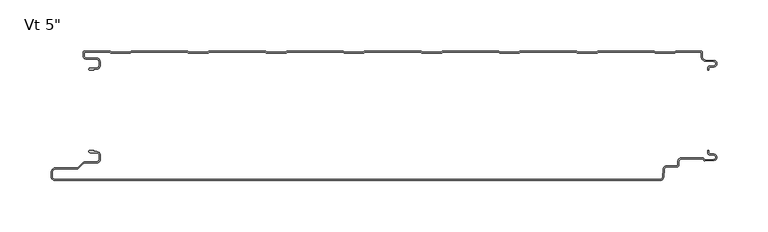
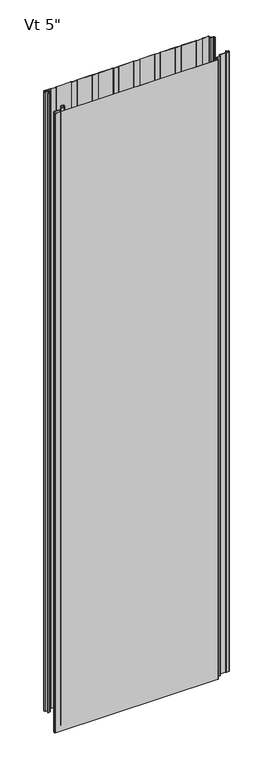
"""IFC4 building model written with IfcOpenShell, lengths in millimetres: plate geometry."""

from ifc_helpers import new_model, si_unit, point, frame, frame_2d, origin, origin_with_axes, place, context, project, spatial, polyline, circle_curve, trimmed, segment, composite_curve, outline, extrude, source, transform, mapped, element, save
from ifc_brep_helpers import plane_surface, cylinder_surface, revolved_surface, advanced_brep


def plate_0180bbca(model_context):
    return source(origin(), model_context, "Body", "SolidModel", [
        advanced_brep(
        [(-302.7686912, -17.0015159, 2400.0), (-303.7686884, -18.0015191, 2400.0), (-302.7686912, -19.0015104, 2400.0), (-298.7684875, -19.0015105, 2400.0), (-298.7684875, -18.0015159, 2400.0), (-296.0762777, -18.0015159, 2400.0), (-292.776282, -14.7015202, 2400.0), (-292.776282, -10.301529, 2400.0), (-296.0762775, -7.0015335, 2400.0), (-306.4962564, -7.0015335, 2400.0), (-308.2662506, -5.2315393, 2400.0), (-308.2662506, -0.9999916, 2400.0), (-283.765974, -0.9999916, 2400.0), (-282.3803314, -2.2002307, 2400.0), (-263.0051651, -2.2002307, 2400.0), (-261.6195321, -1.0, 2400.0), (-207.5661167, -1.0, 2400.0), (-206.1804838, -2.2002307, 2400.0), (-186.8053175, -2.2002307, 2400.0), (-185.4196845, -1.0, 2400.0), (-131.3662691, -1.0, 2400.0), (-129.9806362, -2.2002307, 2400.0), (-110.6054699, -2.2002307, 2400.0), (-109.2198369, -1.0, 2400.0), (-55.1664215, -1.0, 2400.0), (-53.7807886, -2.2002307, 2400.0), (-34.4056223, -2.2002307, 2400.0), (-33.0199893, -1.0, 2400.0), (21.0334261, -1.0, 2400.0), (22.419059, -2.2002307, 2400.0), (41.7942253, -2.2002307, 2400.0), (43.1798583, -1.0, 2400.0), (97.2332737, -1.0, 2400.0), (98.6189066, -2.2002307, 2400.0), (117.9940729, -2.2002307, 2400.0), (119.3797059, -1.0, 2400.0), (173.4331213, -1.0, 2400.0), (174.8187542, -2.2002307, 2400.0), (194.1939205, -2.2002307, 2400.0), (195.5795535, -1.0, 2400.0), (249.6329689, -1.0, 2400.0), (251.0186018, -2.2002307, 2400.0), (270.3937681, -2.2002307, 2400.0), (271.7794011, -1.0, 2400.0), (296.2787013, -1.0, 2400.0), (296.2787013, -6.0026007, 2400.0), (300.1016499, -9.9974365, 2400.0), (308.5931719, -10.4046442, 2400.0), (308.5921924, -14.7059822, 2400.0), (304.4513685, -14.9256429, 2400.0), (302.7686884, -16.6743462, 2400.0), (302.7686884, -19.0015288, 2400.0), (303.7686884, -19.0015288, 2400.0), (303.7686884, -16.6743462, 2400.0), (304.4955779, -15.9247038, 2400.0), (308.6451655, -15.7045782, 2400.0), (308.6435732, -9.405912, 2400.0), (300.1495495, -8.9985844, 2400.0), (297.2787013, -6.0004836, 2400.0), (297.2787013, -1.4015652, 2400.0), (295.878797, -0.001568, 2400.0), (271.9275849, 2.09e-05, 2400.0), (271.0119353, -0.3417885, 2400.0), (270.0208877, -1.2002307, 2400.0), (251.3914823, -1.2002307, 2400.0), (250.4004346, -0.3417885, 2400.0), (249.4838177, 0.0, 2400.0), (195.7287046, 0.0, 2400.0), (194.8120877, -0.3417885, 2400.0), (193.8210401, -1.2002307, 2400.0), (175.1916347, -1.2002307, 2400.0), (174.200587, -0.3417885, 2400.0), (173.2839701, 0.0, 2400.0), (119.528857, 0.0, 2400.0), (118.6122401, -0.3417885, 2400.0), (117.6211925, -1.2002307, 2400.0), (98.9917871, -1.2002307, 2400.0), (98.0007394, -0.3417885, 2400.0), (97.0841225, 0.0, 2400.0), (43.3290094, 0.0, 2400.0), (42.4123925, -0.3417885, 2400.0), (41.4213449, -1.2002307, 2400.0), (22.7919395, -1.2002307, 2400.0), (21.8008918, -0.3417885, 2400.0), (20.8842749, 0.0, 2400.0), (-32.8708382, 0.0, 2400.0), (-33.7874551, -0.3417885, 2400.0), (-34.7785027, -1.2002307, 2400.0), (-53.4079081, -1.2002307, 2400.0), (-54.3989558, -0.3417885, 2400.0), (-55.3155727, 0.0, 2400.0), (-109.0706858, 0.0, 2400.0), (-109.9873027, -0.3417885, 2400.0), (-110.9783503, -1.2002307, 2400.0), (-129.6077557, -1.2002307, 2400.0), (-130.5988034, -0.3417885, 2400.0), (-131.5154203, 0.0, 2400.0), (-185.2705334, 0.0, 2400.0), (-186.1871503, -0.3417885, 2400.0), (-187.1781979, -1.2002307, 2400.0), (-205.8076033, -1.2002307, 2400.0), (-206.798651, -0.3417885, 2400.0), (-207.7152679, 0.0, 2400.0), (-261.470381, 0.0, 2400.0), (-262.3869979, -0.3417885, 2400.0), (-263.3780455, -1.2002307, 2400.0), (-282.0074509, -1.2002307, 2400.0), (-282.9984986, -0.3417885, 2400.0), (-283.9152069, 0.0, 2400.0), (-307.8662545, 8.4e-06, 2400.0), (-309.2662506, -1.3999878, 2400.0), (-309.2662506, -5.2315393, 2400.0), (-306.4962564, -8.0015335, 2400.0), (-296.0762775, -8.0015335, 2400.0), (-293.776282, -10.301529, 2400.0), (-293.776282, -14.7015202, 2400.0), (-296.0762777, -17.0015159, 2400.0), (-302.7686912, -17.0015159, 0.0), (-296.0762777, -17.0015159, 0.0), (-293.776282, -14.7015202, 0.0), (-293.776282, -10.301529, 0.0), (-296.0762775, -8.0015335, 0.0), (-306.4962564, -8.0015335, 0.0), (-309.2662506, -5.2315393, 0.0), (-309.2662506, -1.3999878, 0.0), (-307.8662545, 8.4e-06, 0.0), (-283.9151155, 8.4e-06, 0.0), (-282.9984986, -0.3417885, 0.0), (-282.0074509, -1.2002307, 0.0), (-263.3780455, -1.2002307, 0.0), (-262.3869979, -0.3417885, 0.0), (-261.470381, 0.0, 0.0), (-207.7152679, 0.0, 0.0), (-206.798651, -0.3417885, 0.0), (-205.8076033, -1.2002307, 0.0), (-187.1781979, -1.2002307, 0.0), (-186.1871503, -0.3417885, 0.0), (-185.2705334, 0.0, 0.0), (-131.5154203, 0.0, 0.0), (-130.5988034, -0.3417885, 0.0), (-129.6077557, -1.2002307, 0.0), (-110.9783503, -1.2002307, 0.0), (-109.9873027, -0.3417885, 0.0), (-109.0706858, 0.0, 0.0), (-55.3155727, 0.0, 0.0), (-54.3989558, -0.3417885, 0.0), (-53.4079081, -1.2002307, 0.0), (-34.7785027, -1.2002307, 0.0), (-33.7874551, -0.3417885, 0.0), (-32.8708382, 0.0, 0.0), (20.8842749, 0.0, 0.0), (21.8008918, -0.3417885, 0.0), (22.7919395, -1.2002307, 0.0), (41.4213449, -1.2002307, 0.0), (42.4123925, -0.3417885, 0.0), (43.3290094, 0.0, 0.0), (97.0841225, 0.0, 0.0), (98.0007394, -0.3417885, 0.0), (98.9917871, -1.2002307, 0.0), (117.6211925, -1.2002307, 0.0), (118.6122401, -0.3417885, 0.0), (119.528857, 0.0, 0.0), (173.2839701, 0.0, 0.0), (174.200587, -0.3417885, 0.0), (175.1916347, -1.2002307, 0.0), (193.8210401, -1.2002307, 0.0), (194.8120877, -0.3417885, 0.0), (195.7287046, 0.0, 0.0), (249.4838177, 0.0, 0.0), (250.4004346, -0.3417885, 0.0), (251.3914823, -1.2002307, 0.0), (270.0208877, -1.2002307, 0.0), (271.0119353, -0.3417885, 0.0), (271.9285522, 0.0, 0.0), (295.878797, 2.09e-05, 0.0), (297.2787013, -1.4015652, 0.0), (297.2787013, -6.0004836, 0.0), (300.1495495, -8.9985844, 0.0), (308.6435732, -9.405912, 0.0), (308.6451655, -15.7045782, 0.0), (304.4955779, -15.9247038, 0.0), (303.7686884, -16.6743462, 0.0), (303.7686884, -19.0015288, 0.0), (302.7686884, -19.0015288, 0.0), (302.7686884, -16.6743462, 0.0), (304.4513685, -14.9256429, 0.0), (308.5921924, -14.7059822, 0.0), (308.5931719, -10.4046442, 0.0), (300.1016499, -9.9974365, 0.0), (296.2787013, -6.0026007, 0.0), (296.2787013, -1.0, 0.0), (271.7794011, -1.0, 0.0), (270.3937681, -2.2002307, 0.0), (251.0186018, -2.2002307, 0.0), (249.6329689, -1.0, 0.0), (195.5795535, -1.0, 0.0), (194.1939205, -2.2002307, 0.0), (174.8187542, -2.2002307, 0.0), (173.4331213, -1.0, 0.0), (119.3797059, -1.0, 0.0), (117.9940729, -2.2002307, 0.0), (98.6189066, -2.2002307, 0.0), (97.2332737, -1.0, 0.0), (43.1798583, -1.0, 0.0), (41.7942253, -2.2002307, 0.0), (22.419059, -2.2002307, 0.0), (21.0334261, -1.0, 0.0), (-33.0199893, -1.0, 0.0), (-34.4056223, -2.2002307, 0.0), (-53.7807886, -2.2002307, 0.0), (-55.1664215, -1.0, 0.0), (-109.2198369, -1.0, 0.0), (-110.6054699, -2.2002307, 0.0), (-129.9806362, -2.2002307, 0.0), (-131.3662691, -1.0, 0.0), (-185.4196845, -1.0, 0.0), (-186.8053175, -2.2002307, 0.0), (-206.1804838, -2.2002307, 0.0), (-207.5661167, -1.0, 0.0), (-261.6195321, -1.0, 0.0), (-263.0051651, -2.2002307, 0.0), (-282.3803314, -2.2002307, 0.0), (-283.765974, -0.9999916, 0.0), (-308.2662506, -0.9999916, 0.0), (-308.2662506, -5.2315393, 0.0), (-306.4962564, -7.0015335, 0.0), (-296.0762775, -7.0015335, 0.0), (-292.776282, -10.301529, 0.0), (-292.776282, -14.7015202, 0.0), (-296.0762777, -18.0015159, 0.0), (-298.7684875, -18.0015159, 0.0), (-298.7684875, -19.0015105, 0.0), (-302.7686912, -19.0015105, 0.0), (-303.7686884, -18.0015191, 0.0)],
        [
            (0, 1, circle_curve(frame((-302.7686912, -18.0015132, 2400.0), z_axis=(0.0, 0.0, 1.0), x_axis=(1.0, 0.0, 0.0)), 0.9999973)),
            (1, 2, circle_curve(frame((-302.7686912, -18.0015132, 2400.0), z_axis=(0.0, 0.0, 1.0), x_axis=(1.0, 0.0, 0.0)), 0.9999972)),
            (2, 3),
            (3, 4),
            (4, 5),
            (5, 6, circle_curve(frame((-296.0762777, -14.7015202, 2400.0), z_axis=(0.0, 0.0, 1.0), x_axis=(1.0, 0.0, 0.0)), 3.2999957)),
            (6, 7),
            (7, 8, circle_curve(frame((-296.0762775, -10.301529, 2400.0), z_axis=(0.0, 0.0, 1.0), x_axis=(1.0, 0.0, 0.0)), 3.2999955)),
            (8, 9),
            (9, 10, circle_curve(frame((-306.4962564, -5.2315393, 2400.0), z_axis=(0.0, 0.0, -1.0), x_axis=(1.0, 0.0, 0.0)), 1.7699942)),
            (10, 11),
            (11, 12),
            (12, 13),
            (13, 14),
            (14, 15),
            (15, 16),
            (16, 17),
            (17, 18),
            (18, 19),
            (19, 20),
            (20, 21),
            (21, 22),
            (22, 23),
            (23, 24),
            (24, 25),
            (25, 26),
            (26, 27),
            (27, 28),
            (28, 29),
            (29, 30),
            (30, 31),
            (31, 32),
            (32, 33),
            (33, 34),
            (34, 35),
            (35, 36),
            (36, 37),
            (37, 38),
            (38, 39),
            (39, 40),
            (40, 41),
            (41, 42),
            (42, 43),
            (43, 44),
            (44, 45),
            (45, 46, circle_curve(frame((300.2939817, -5.9867338, 2400.0), z_axis=(0.0, 0.0, 1.0), x_axis=(1.0, 0.0, 0.0)), 4.0153117)),
            (46, 47),
            (47, 48, circle_curve(frame((308.4781032, -12.5552871, 2400.0), z_axis=(0.0, 0.0, -1.0), x_axis=(1.0, 0.0, 0.0)), 2.153719)),
            (48, 49),
            (49, 50, circle_curve(frame((304.5186869, -16.6743462, 2400.0), z_axis=(0.0, 0.0, 1.0), x_axis=(1.0, 0.0, 0.0)), 1.7499985)),
            (50, 51),
            (51, 52),
            (52, 53),
            (53, 54, circle_curve(frame((304.5186869, -16.6743462, 2400.0), z_axis=(0.0, 0.0, -1.0), x_axis=(1.0, 0.0, 0.0)), 0.7499985)),
            (54, 55),
            (55, 56, circle_curve(frame((308.4781032, -12.5552871, 2400.0), z_axis=(0.0, 0.0, 1.0), x_axis=(1.0, 0.0, 0.0)), 3.153719)),
            (56, 57),
            (57, 58, circle_curve(frame((300.2939817, -5.9867338, 2400.0), z_axis=(0.0, 0.0, -1.0), x_axis=(1.0, 0.0, 0.0)), 3.0153117)),
            (58, 59),
            (59, 60, circle_curve(frame((295.8787041, -1.4015652, 2400.0), z_axis=(0.0, 0.0, 1.0), x_axis=(1.0, 0.0, 0.0)), 1.3999972)),
            (60, 61),
            (61, 62, circle_curve(frame((271.9285522, -1.3999972, 2400.0), z_axis=(0.0, 0.0, 1.0), x_axis=(1.0, 0.0, 0.0)), 1.3999972)),
            (62, 63),
            (63, 64),
            (64, 65),
            (65, 66, circle_curve(frame((249.4838177, -1.3999972, 2400.0), z_axis=(0.0, 0.0, 1.0), x_axis=(1.0, 0.0, 0.0)), 1.3999972)),
            (66, 67),
            (67, 68, circle_curve(frame((195.7287046, -1.3999972, 2400.0), z_axis=(0.0, 0.0, 1.0), x_axis=(1.0, 0.0, 0.0)), 1.3999972)),
            (68, 69),
            (69, 70),
            (70, 71),
            (71, 72, circle_curve(frame((173.2839701, -1.3999972, 2400.0), z_axis=(0.0, 0.0, 1.0), x_axis=(1.0, 0.0, 0.0)), 1.3999972)),
            (72, 73),
            (73, 74, circle_curve(frame((119.528857, -1.3999972, 2400.0), z_axis=(0.0, 0.0, 1.0), x_axis=(1.0, 0.0, 0.0)), 1.3999972)),
            (74, 75),
            (75, 76),
            (76, 77),
            (77, 78, circle_curve(frame((97.0841225, -1.3999972, 2400.0), z_axis=(0.0, 0.0, 1.0), x_axis=(1.0, 0.0, 0.0)), 1.3999972)),
            (78, 79),
            (79, 80, circle_curve(frame((43.3290094, -1.3999972, 2400.0), z_axis=(0.0, 0.0, 1.0), x_axis=(1.0, 0.0, 0.0)), 1.3999972)),
            (80, 81),
            (81, 82),
            (82, 83),
            (83, 84, circle_curve(frame((20.8842749, -1.3999972, 2400.0), z_axis=(0.0, 0.0, 1.0), x_axis=(1.0, 0.0, 0.0)), 1.3999972)),
            (84, 85),
            (85, 86, circle_curve(frame((-32.8708382, -1.3999972, 2400.0), z_axis=(0.0, 0.0, 1.0), x_axis=(1.0, 0.0, 0.0)), 1.3999972)),
            (86, 87),
            (87, 88),
            (88, 89),
            (89, 90, circle_curve(frame((-55.3155727, -1.3999972, 2400.0), z_axis=(0.0, 0.0, 1.0), x_axis=(1.0, 0.0, 0.0)), 1.3999972)),
            (90, 91),
            (91, 92, circle_curve(frame((-109.0706858, -1.3999972, 2400.0), z_axis=(0.0, 0.0, 1.0), x_axis=(1.0, 0.0, 0.0)), 1.3999972)),
            (92, 93),
            (93, 94),
            (94, 95),
            (95, 96, circle_curve(frame((-131.5154203, -1.3999972, 2400.0), z_axis=(0.0, 0.0, 1.0), x_axis=(1.0, 0.0, 0.0)), 1.3999972)),
            (96, 97),
            (97, 98, circle_curve(frame((-185.2705334, -1.3999972, 2400.0), z_axis=(0.0, 0.0, 1.0), x_axis=(1.0, 0.0, 0.0)), 1.3999972)),
            (98, 99),
            (99, 100),
            (100, 101),
            (101, 102, circle_curve(frame((-207.7152679, -1.3999972, 2400.0), z_axis=(0.0, 0.0, 1.0), x_axis=(1.0, 0.0, 0.0)), 1.3999972)),
            (102, 103),
            (103, 104, circle_curve(frame((-261.470381, -1.3999972, 2400.0), z_axis=(0.0, 0.0, 1.0), x_axis=(1.0, 0.0, 0.0)), 1.3999972)),
            (104, 105),
            (105, 106),
            (106, 107),
            (107, 108, circle_curve(frame((-283.9151155, -1.3999972, 2400.0), z_axis=(0.0, 0.0, 1.0), x_axis=(1.0, 0.0, 0.0)), 1.3999972)),
            (108, 109),
            (109, 110, circle_curve(frame((-307.8662545, -1.3999878, 2400.0), z_axis=(0.0, 0.0, 1.0), x_axis=(1.0, 0.0, 0.0)), 1.3999962)),
            (110, 111),
            (111, 112, circle_curve(frame((-306.4962564, -5.2315393, 2400.0), z_axis=(0.0, 0.0, 1.0), x_axis=(1.0, 0.0, 0.0)), 2.7699942)),
            (112, 113),
            (113, 114, circle_curve(frame((-296.0762775, -10.301529, 2400.0), z_axis=(0.0, 0.0, -1.0), x_axis=(1.0, 0.0, 0.0)), 2.2999955)),
            (114, 115),
            (115, 116, circle_curve(frame((-296.0762777, -14.7015202, 2400.0), z_axis=(0.0, 0.0, -1.0), x_axis=(1.0, 0.0, 0.0)), 2.2999957)),
            (116, 0),
            (117, 118),
            (118, 119, circle_curve(frame((-296.0762777, -14.7015202, 0.0), z_axis=(0.0, 0.0, 1.0), x_axis=(1.0, 0.0, 0.0)), 2.2999957)),
            (119, 120),
            (120, 121, circle_curve(frame((-296.0762775, -10.301529, 0.0), z_axis=(0.0, 0.0, 1.0), x_axis=(1.0, 0.0, 0.0)), 2.2999955)),
            (121, 122),
            (122, 123, circle_curve(frame((-306.4962564, -5.2315393, 0.0), z_axis=(0.0, 0.0, -1.0), x_axis=(1.0, 0.0, 0.0)), 2.7699942)),
            (123, 124),
            (124, 125, circle_curve(frame((-307.8662545, -1.3999878, 0.0), z_axis=(0.0, 0.0, -1.0), x_axis=(1.0, 0.0, 0.0)), 1.3999962)),
            (125, 126),
            (126, 127, circle_curve(frame((-283.9151155, -1.3999972, 0.0), z_axis=(0.0, 0.0, -1.0), x_axis=(1.0, 0.0, 0.0)), 1.3999972)),
            (127, 128),
            (128, 129),
            (129, 130),
            (130, 131, circle_curve(frame((-261.470381, -1.3999972, 0.0), z_axis=(0.0, 0.0, -1.0), x_axis=(1.0, 0.0, 0.0)), 1.3999972)),
            (131, 132),
            (132, 133, circle_curve(frame((-207.7152679, -1.3999972, 0.0), z_axis=(0.0, 0.0, -1.0), x_axis=(1.0, 0.0, 0.0)), 1.3999972)),
            (133, 134),
            (134, 135),
            (135, 136),
            (136, 137, circle_curve(frame((-185.2705334, -1.3999972, 0.0), z_axis=(0.0, 0.0, -1.0), x_axis=(1.0, 0.0, 0.0)), 1.3999972)),
            (137, 138),
            (138, 139, circle_curve(frame((-131.5154203, -1.3999972, 0.0), z_axis=(0.0, 0.0, -1.0), x_axis=(1.0, 0.0, 0.0)), 1.3999972)),
            (139, 140),
            (140, 141),
            (141, 142),
            (142, 143, circle_curve(frame((-109.0706858, -1.3999972, 0.0), z_axis=(0.0, 0.0, -1.0), x_axis=(1.0, 0.0, 0.0)), 1.3999972)),
            (143, 144),
            (144, 145, circle_curve(frame((-55.3155727, -1.3999972, 0.0), z_axis=(0.0, 0.0, -1.0), x_axis=(1.0, 0.0, 0.0)), 1.3999972)),
            (145, 146),
            (146, 147),
            (147, 148),
            (148, 149, circle_curve(frame((-32.8708382, -1.3999972, 0.0), z_axis=(0.0, 0.0, -1.0), x_axis=(1.0, 0.0, 0.0)), 1.3999972)),
            (149, 150),
            (150, 151, circle_curve(frame((20.8842749, -1.3999972, 0.0), z_axis=(0.0, 0.0, -1.0), x_axis=(1.0, 0.0, 0.0)), 1.3999972)),
            (151, 152),
            (152, 153),
            (153, 154),
            (154, 155, circle_curve(frame((43.3290094, -1.3999972, 0.0), z_axis=(0.0, 0.0, -1.0), x_axis=(1.0, 0.0, 0.0)), 1.3999972)),
            (155, 156),
            (156, 157, circle_curve(frame((97.0841225, -1.3999972, 0.0), z_axis=(0.0, 0.0, -1.0), x_axis=(1.0, 0.0, 0.0)), 1.3999972)),
            (157, 158),
            (158, 159),
            (159, 160),
            (160, 161, circle_curve(frame((119.528857, -1.3999972, 0.0), z_axis=(0.0, 0.0, -1.0), x_axis=(1.0, 0.0, 0.0)), 1.3999972)),
            (161, 162),
            (162, 163, circle_curve(frame((173.2839701, -1.3999972, 0.0), z_axis=(0.0, 0.0, -1.0), x_axis=(1.0, 0.0, 0.0)), 1.3999972)),
            (163, 164),
            (164, 165),
            (165, 166),
            (166, 167, circle_curve(frame((195.7287046, -1.3999972, 0.0), z_axis=(0.0, 0.0, -1.0), x_axis=(1.0, 0.0, 0.0)), 1.3999972)),
            (167, 168),
            (168, 169, circle_curve(frame((249.4838177, -1.3999972, 0.0), z_axis=(0.0, 0.0, -1.0), x_axis=(1.0, 0.0, 0.0)), 1.3999972)),
            (169, 170),
            (170, 171),
            (171, 172),
            (172, 173, circle_curve(frame((271.9285522, -1.3999972, 0.0), z_axis=(0.0, 0.0, -1.0), x_axis=(1.0, 0.0, 0.0)), 1.3999972)),
            (173, 174),
            (174, 175, circle_curve(frame((295.8787041, -1.4015652, 0.0), z_axis=(0.0, 0.0, -1.0), x_axis=(1.0, 0.0, 0.0)), 1.3999972)),
            (175, 176),
            (176, 177, circle_curve(frame((300.2939817, -5.9867338, 0.0), z_axis=(0.0, 0.0, 1.0), x_axis=(1.0, 0.0, 0.0)), 3.0153117)),
            (177, 178),
            (178, 179, circle_curve(frame((308.4781032, -12.5552871, 0.0), z_axis=(0.0, 0.0, -1.0), x_axis=(1.0, 0.0, 0.0)), 3.153719)),
            (179, 180),
            (180, 181, circle_curve(frame((304.5186869, -16.6743462, 0.0), z_axis=(0.0, 0.0, 1.0), x_axis=(1.0, 0.0, 0.0)), 0.7499985)),
            (181, 182),
            (182, 183),
            (183, 184),
            (184, 185, circle_curve(frame((304.5186869, -16.6743462, 0.0), z_axis=(0.0, 0.0, -1.0), x_axis=(1.0, 0.0, 0.0)), 1.7499985)),
            (185, 186),
            (186, 187, circle_curve(frame((308.4781032, -12.5552871, 0.0), z_axis=(0.0, 0.0, 1.0), x_axis=(1.0, 0.0, 0.0)), 2.153719)),
            (187, 188),
            (188, 189, circle_curve(frame((300.2939817, -5.9867338, 0.0), z_axis=(0.0, 0.0, -1.0), x_axis=(1.0, 0.0, 0.0)), 4.0153117)),
            (189, 190),
            (190, 191),
            (191, 192),
            (192, 193),
            (193, 194),
            (194, 195),
            (195, 196),
            (196, 197),
            (197, 198),
            (198, 199),
            (199, 200),
            (200, 201),
            (201, 202),
            (202, 203),
            (203, 204),
            (204, 205),
            (205, 206),
            (206, 207),
            (207, 208),
            (208, 209),
            (209, 210),
            (210, 211),
            (211, 212),
            (212, 213),
            (213, 214),
            (214, 215),
            (215, 216),
            (216, 217),
            (217, 218),
            (218, 219),
            (219, 220),
            (220, 221),
            (221, 222),
            (222, 223),
            (223, 224),
            (224, 225, circle_curve(frame((-306.4962564, -5.2315393, 0.0), z_axis=(0.0, 0.0, 1.0), x_axis=(1.0, 0.0, 0.0)), 1.7699942)),
            (225, 226),
            (226, 227, circle_curve(frame((-296.0762775, -10.301529, 0.0), z_axis=(0.0, 0.0, -1.0), x_axis=(1.0, 0.0, 0.0)), 3.2999955)),
            (227, 228),
            (228, 229, circle_curve(frame((-296.0762777, -14.7015202, 0.0), z_axis=(0.0, 0.0, -1.0), x_axis=(1.0, 0.0, 0.0)), 3.2999957)),
            (229, 230),
            (230, 231),
            (231, 232),
            (232, 233, circle_curve(frame((-302.7686912, -18.0015132, 0.0), z_axis=(0.0, 0.0, -1.0), x_axis=(1.0, 0.0, 0.0)), 0.9999972)),
            (233, 117, circle_curve(frame((-302.7686912, -18.0015132, 0.0), z_axis=(0.0, 0.0, -1.0), x_axis=(1.0, 0.0, 0.0)), 0.9999973)),
            (116, 118),
            (117, 0),
            (115, 119),
            (114, 120),
            (113, 121),
            (112, 122),
            (111, 123),
            (110, 124),
            (109, 125),
            (108, 126),
            (90, 144),
            (143, 91),
            (107, 127),
            (106, 128),
            (105, 129),
            (103, 131),
            (130, 104),
            (101, 133),
            (132, 102),
            (86, 148),
            (147, 87),
            (142, 92),
            (141, 93),
            (96, 138),
            (137, 97),
            (89, 145),
            (88, 146),
            (85, 149),
            (136, 98),
            (99, 135),
            (134, 100),
            (95, 139),
            (94, 140),
            (2, 232),
            (231, 3),
            (1, 233),
            (84, 150),
            (83, 151),
            (82, 152),
            (81, 153),
            (80, 154),
            (79, 155),
            (78, 156),
            (77, 157),
            (76, 158),
            (75, 159),
            (74, 160),
            (73, 161),
            (72, 162),
            (71, 163),
            (70, 164),
            (69, 165),
            (68, 166),
            (67, 167),
            (66, 168),
            (65, 169),
            (64, 170),
            (63, 171),
            (62, 172),
            (61, 173),
            (60, 174),
            (59, 175),
            (58, 176),
            (57, 177),
            (56, 178),
            (55, 179),
            (54, 180),
            (53, 181),
            (52, 182),
            (51, 183),
            (50, 184),
            (49, 185),
            (48, 186),
            (47, 187),
            (46, 188),
            (45, 189),
            (44, 190),
            (43, 191),
            (42, 192),
            (41, 193),
            (40, 194),
            (39, 195),
            (38, 196),
            (37, 197),
            (36, 198),
            (35, 199),
            (34, 200),
            (33, 201),
            (32, 202),
            (31, 203),
            (30, 204),
            (29, 205),
            (28, 206),
            (27, 207),
            (26, 208),
            (25, 209),
            (24, 210),
            (23, 211),
            (22, 212),
            (21, 213),
            (20, 214),
            (19, 215),
            (18, 216),
            (17, 217),
            (16, 218),
            (15, 219),
            (14, 220),
            (13, 221),
            (12, 222),
            (11, 223),
            (10, 224),
            (9, 225),
            (8, 226),
            (7, 227),
            (6, 228),
            (5, 229),
            (4, 230),
        ],
        [
            plane_surface(frame((0.0, 0.0, 2400.0), z_axis=(0.0, 0.0, 1.0), x_axis=(0.0, 1.0, 0.0))),
            plane_surface(frame((0.0, 0.0, 0.0), z_axis=(0.0, 0.0, -1.0), x_axis=(0.0, 1.0, 0.0))),
            plane_surface(frame((-302.7686912, -17.0015159, 2400.0), z_axis=(0.0, 1.0, 0.0), x_axis=(0.0, 0.0, -1.0))),
            revolved_surface(polyline([(-293.776282, -14.7015202, 0.0), (-293.776282, -14.7015202, 2400.0)]), (-296.0762777, -14.7015202, 2400.0), (0.0, 0.0, -1.0)),
            plane_surface(frame((-293.776282, -14.7015202, 2400.0), z_axis=(-1.0, 0.0, 0.0), x_axis=(0.0, 0.0, -1.0))),
            revolved_surface(polyline([(-293.776282, -10.301529, 0.0), (-293.776282, -10.301529, 2400.0)]), (-296.0762775, -10.301529, 2400.0), (0.0, 0.0, -1.0)),
            plane_surface(frame((-296.0762775, -8.0015335, 2400.0), z_axis=(0.0, -1.0, 0.0), x_axis=(0.0, 0.0, -1.0))),
            cylinder_surface(frame((-306.4962564, -5.2315393, 2400.0), z_axis=(0.0, 0.0, 1.0), x_axis=(1.0, 0.0, 0.0)), 2.7699942),
            plane_surface(frame((-309.2662506, -5.2315393, 2400.0), z_axis=(-1.0, 0.0, 0.0), x_axis=(0.0, 0.0, -1.0))),
            cylinder_surface(frame((-307.8662545, -1.3999878, 2400.0), z_axis=(0.0, 0.0, 1.0), x_axis=(1.0, 0.0, 0.0)), 1.3999962),
            plane_surface(frame((-307.8662545, 8.4e-06, 2400.0), z_axis=(0.0, 1.0, 0.0), x_axis=(0.0, 0.0, -1.0))),
            plane_surface(frame((-109.0706858, 0.0, 2400.0), z_axis=(0.0, 1.0, 0.0), x_axis=(0.0, 0.0, -1.0))),
            cylinder_surface(frame((-283.9151155, -1.3999972, 2400.0), z_axis=(0.0, 0.0, 1.0), x_axis=(1.0, 0.0, 0.0)), 1.3999972),
            plane_surface(frame((-282.9984986, -0.3417885, 2400.0), z_axis=(0.6547276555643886, 0.755864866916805, 0.0), x_axis=(0.0, 0.0, -1.0))),
            plane_surface(frame((-272.6927482, -1.2002307, 2400.0), z_axis=(0.0, 1.0, 0.0), x_axis=(0.0, 0.0, -1.0))),
            cylinder_surface(frame((-261.470381, -1.3999972, 2400.0), z_axis=(0.0, 0.0, 1.0), x_axis=(1.0, 0.0, 0.0)), 1.3999972),
            plane_surface(frame((-263.3780455, -1.2002307, 2400.0), z_axis=(-0.6547276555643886, 0.755864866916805, 0.0), x_axis=(0.0, 0.0, -1.0))),
            cylinder_surface(frame((-207.7152679, -1.3999972, 2400.0), z_axis=(0.0, 0.0, 1.0), x_axis=(1.0, 0.0, 0.0)), 1.3999972),
            plane_surface(frame((-34.7785027, -1.2002307, 2400.0), z_axis=(-0.6547276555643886, 0.755864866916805, 0.0), x_axis=(0.0, 0.0, -1.0))),
            cylinder_surface(frame((-109.0706858, -1.3999972, 2400.0), z_axis=(0.0, 0.0, 1.0), x_axis=(1.0, 0.0, 0.0)), 1.3999972),
            plane_surface(frame((-110.9783503, -1.2002307, 2400.0), z_axis=(-0.6547276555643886, 0.755864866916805, 0.0), x_axis=(0.0, 0.0, -1.0))),
            plane_surface(frame((-185.2705334, 0.0, 2400.0), z_axis=(0.0, 1.0, 0.0), x_axis=(0.0, 0.0, -1.0))),
            cylinder_surface(frame((-55.3155727, -1.3999972, 2400.0), z_axis=(0.0, 0.0, 1.0), x_axis=(1.0, 0.0, 0.0)), 1.3999972),
            plane_surface(frame((-54.3989558, -0.3417885, 2400.0), z_axis=(0.6547276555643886, 0.755864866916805, 0.0), x_axis=(0.0, 0.0, -1.0))),
            plane_surface(frame((-44.0932054, -1.2002307, 2400.0), z_axis=(0.0, 1.0, 0.0), x_axis=(0.0, 0.0, -1.0))),
            cylinder_surface(frame((-32.8708382, -1.3999972, 2400.0), z_axis=(0.0, 0.0, 1.0), x_axis=(1.0, 0.0, 0.0)), 1.3999972),
            cylinder_surface(frame((-185.2705334, -1.3999972, 2400.0), z_axis=(0.0, 0.0, 1.0), x_axis=(1.0, 0.0, 0.0)), 1.3999972),
            plane_surface(frame((-196.4929006, -1.2002307, 2400.0), z_axis=(0.0, 1.0, 0.0), x_axis=(0.0, 0.0, -1.0))),
            plane_surface(frame((-206.798651, -0.3417885, 2400.0), z_axis=(0.6547276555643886, 0.755864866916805, 0.0), x_axis=(0.0, 0.0, -1.0))),
            plane_surface(frame((-187.1781979, -1.2002307, 2400.0), z_axis=(-0.6547276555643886, 0.755864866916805, 0.0), x_axis=(0.0, 0.0, -1.0))),
            plane_surface(frame((-261.470381, 0.0, 2400.0), z_axis=(0.0, 1.0, 0.0), x_axis=(0.0, 0.0, -1.0))),
            cylinder_surface(frame((-131.5154203, -1.3999972, 2400.0), z_axis=(0.0, 0.0, 1.0), x_axis=(1.0, 0.0, 0.0)), 1.3999972),
            plane_surface(frame((-130.5988034, -0.3417885, 2400.0), z_axis=(0.6547276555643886, 0.755864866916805, 0.0), x_axis=(0.0, 0.0, -1.0))),
            plane_surface(frame((-120.293053, -1.2002307, 2400.0), z_axis=(0.0, 1.0, 0.0), x_axis=(0.0, 0.0, -1.0))),
            plane_surface(frame((-298.7684875, -19.0015105, 2400.0), z_axis=(0.0, -1.0, 0.0), x_axis=(0.0, 0.0, -1.0))),
            cylinder_surface(frame((-302.7686912, -18.0015132, 2400.0), z_axis=(0.0, 0.0, 1.0), x_axis=(1.0, 0.0, 0.0)), 0.9999972),
            cylinder_surface(frame((-302.7686912, -18.0015132, 2400.0), z_axis=(0.0, 0.0, 1.0), x_axis=(1.0, 0.0, 0.0)), 0.9999973),
            plane_surface(frame((-32.8708382, 0.0, 2400.0), z_axis=(0.0, 1.0, 0.0), x_axis=(0.0, 0.0, -1.0))),
            cylinder_surface(frame((20.8842749, -1.3999972, 2400.0), z_axis=(0.0, 0.0, 1.0), x_axis=(1.0, 0.0, 0.0)), 1.3999972),
            plane_surface(frame((21.8008918, -0.3417885, 2400.0), z_axis=(0.6547276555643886, 0.755864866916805, 0.0), x_axis=(0.0, 0.0, -1.0))),
            plane_surface(frame((32.1066422, -1.2002307, 2400.0), z_axis=(0.0, 1.0, 0.0), x_axis=(0.0, 0.0, -1.0))),
            plane_surface(frame((41.4213449, -1.2002307, 2400.0), z_axis=(-0.6547276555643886, 0.755864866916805, 0.0), x_axis=(0.0, 0.0, -1.0))),
            cylinder_surface(frame((43.3290094, -1.3999972, 2400.0), z_axis=(0.0, 0.0, 1.0), x_axis=(1.0, 0.0, 0.0)), 1.3999972),
            plane_surface(frame((43.3290094, 0.0, 2400.0), z_axis=(0.0, 1.0, 0.0), x_axis=(0.0, 0.0, -1.0))),
            cylinder_surface(frame((97.0841225, -1.3999972, 2400.0), z_axis=(0.0, 0.0, 1.0), x_axis=(1.0, 0.0, 0.0)), 1.3999972),
            plane_surface(frame((98.0007394, -0.3417885, 2400.0), z_axis=(0.6547276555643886, 0.755864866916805, 0.0), x_axis=(0.0, 0.0, -1.0))),
            plane_surface(frame((108.3064898, -1.2002307, 2400.0), z_axis=(0.0, 1.0, 0.0), x_axis=(0.0, 0.0, -1.0))),
            plane_surface(frame((117.6211925, -1.2002307, 2400.0), z_axis=(-0.6547276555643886, 0.755864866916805, 0.0), x_axis=(0.0, 0.0, -1.0))),
            cylinder_surface(frame((119.528857, -1.3999972, 2400.0), z_axis=(0.0, 0.0, 1.0), x_axis=(1.0, 0.0, 0.0)), 1.3999972),
            plane_surface(frame((119.528857, 0.0, 2400.0), z_axis=(0.0, 1.0, 0.0), x_axis=(0.0, 0.0, -1.0))),
            cylinder_surface(frame((173.2839701, -1.3999972, 2400.0), z_axis=(0.0, 0.0, 1.0), x_axis=(1.0, 0.0, 0.0)), 1.3999972),
            plane_surface(frame((174.200587, -0.3417885, 2400.0), z_axis=(0.6547276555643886, 0.755864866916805, 0.0), x_axis=(0.0, 0.0, -1.0))),
            plane_surface(frame((184.5063374, -1.2002307, 2400.0), z_axis=(0.0, 1.0, 0.0), x_axis=(0.0, 0.0, -1.0))),
            plane_surface(frame((193.8210401, -1.2002307, 2400.0), z_axis=(-0.6547276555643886, 0.755864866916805, 0.0), x_axis=(0.0, 0.0, -1.0))),
            cylinder_surface(frame((195.7287046, -1.3999972, 2400.0), z_axis=(0.0, 0.0, 1.0), x_axis=(1.0, 0.0, 0.0)), 1.3999972),
            plane_surface(frame((195.7287046, 0.0, 2400.0), z_axis=(0.0, 1.0, 0.0), x_axis=(0.0, 0.0, -1.0))),
            cylinder_surface(frame((249.4838177, -1.3999972, 2400.0), z_axis=(0.0, 0.0, 1.0), x_axis=(1.0, 0.0, 0.0)), 1.3999972),
            plane_surface(frame((250.4004346, -0.3417885, 2400.0), z_axis=(0.6547276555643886, 0.755864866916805, 0.0), x_axis=(0.0, 0.0, -1.0))),
            plane_surface(frame((260.706185, -1.2002307, 2400.0), z_axis=(0.0, 1.0, 0.0), x_axis=(0.0, 0.0, -1.0))),
            plane_surface(frame((270.0208877, -1.2002307, 2400.0), z_axis=(-0.6547276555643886, 0.755864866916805, 0.0), x_axis=(0.0, 0.0, -1.0))),
            cylinder_surface(frame((271.9285522, -1.3999972, 2400.0), z_axis=(0.0, 0.0, 1.0), x_axis=(1.0, 0.0, 0.0)), 1.3999972),
            plane_surface(frame((271.9275849, 2.09e-05, 2400.0), z_axis=(0.0, 1.0, 0.0), x_axis=(0.0, 0.0, -1.0))),
            cylinder_surface(frame((295.8787041, -1.4015652, 2400.0), z_axis=(0.0, 0.0, 1.0), x_axis=(1.0, 0.0, 0.0)), 1.3999972),
            plane_surface(frame((297.2787013, -1.4015652, 2400.0), z_axis=(1.0, 0.0, 0.0), x_axis=(0.0, 0.0, -1.0))),
            revolved_surface(polyline([(303.3092934, -5.9867338, 0.0), (303.3092934, -5.9867338, 2400.0)]), (300.2939817, -5.9867338, 2400.0), (0.0, 0.0, -1.0)),
            plane_surface(frame((300.1495495, -8.9985844, 2400.0), z_axis=(0.047899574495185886, 0.9988521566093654, 0.0), x_axis=(0.0, 0.0, -1.0))),
            cylinder_surface(frame((308.4781032, -12.5552871, 2400.0), z_axis=(0.0, 0.0, 1.0), x_axis=(1.0, 0.0, 0.0)), 3.153719),
            plane_surface(frame((308.6451655, -15.7045782, 2400.0), z_axis=(0.05297310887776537, -0.9985959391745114, 0.0), x_axis=(0.0, 0.0, -1.0))),
            revolved_surface(polyline([(305.2686854, -16.6743462, 0.0), (305.2686854, -16.6743462, 2400.0)]), (304.5186869, -16.6743462, 2400.0), (0.0, 0.0, -1.0)),
            plane_surface(frame((303.7686884, -17.5871409, 2400.0), z_axis=(1.0, 0.0, 0.0), x_axis=(0.0, 0.0, -1.0))),
            plane_surface(frame((303.7686884, -19.0015288, 2400.0), z_axis=(0.0, -1.0, 0.0), x_axis=(0.0, 0.0, -1.0))),
            plane_surface(frame((302.7686884, -17.5871409, 2400.0), z_axis=(-1.0, 0.0, 0.0), x_axis=(0.0, 0.0, -1.0))),
            cylinder_surface(frame((304.5186869, -16.6743462, 2400.0), z_axis=(0.0, 0.0, 1.0), x_axis=(1.0, 0.0, 0.0)), 1.7499985),
            plane_surface(frame((304.4513685, -14.9256429, 2400.0), z_axis=(-0.05297310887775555, 0.998595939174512, 0.0), x_axis=(0.0, 0.0, -1.0))),
            revolved_surface(polyline([(310.63182220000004, -12.5552871, 0.0), (310.63182220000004, -12.5552871, 2400.0)]), (308.4781032, -12.5552871, 2400.0), (0.0, 0.0, -1.0)),
            plane_surface(frame((308.5931719, -10.4046442, 2400.0), z_axis=(-0.04789957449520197, -0.9988521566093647, 0.0), x_axis=(0.0, 0.0, -1.0))),
            cylinder_surface(frame((300.2939817, -5.9867338, 2400.0), z_axis=(0.0, 0.0, 1.0), x_axis=(1.0, 0.0, 0.0)), 4.0153117),
            plane_surface(frame((296.2787013, -6.0026007, 2400.0), z_axis=(-1.0, 0.0, 0.0), x_axis=(0.0, 0.0, -1.0))),
            plane_surface(frame((296.2787013, -1.0, 2400.0), z_axis=(0.0, -1.0, 0.0), x_axis=(0.0, 0.0, -1.0))),
            plane_surface(frame((271.7794011, -1.0, 2400.0), z_axis=(0.6547276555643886, -0.755864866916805, 0.0), x_axis=(0.0, 0.0, -1.0))),
            plane_surface(frame((270.3937681, -2.2002307, 2400.0), z_axis=(0.0, -1.0, 0.0), x_axis=(0.0, 0.0, -1.0))),
            plane_surface(frame((251.0186018, -2.2002307, 2400.0), z_axis=(-0.6547276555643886, -0.755864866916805, 0.0), x_axis=(0.0, 0.0, -1.0))),
            plane_surface(frame((249.6329689, -1.0, 2400.0), z_axis=(0.0, -1.0, 0.0), x_axis=(0.0, 0.0, -1.0))),
            plane_surface(frame((195.5795535, -1.0, 2400.0), z_axis=(0.6547276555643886, -0.755864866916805, 0.0), x_axis=(0.0, 0.0, -1.0))),
            plane_surface(frame((194.1939205, -2.2002307, 2400.0), z_axis=(0.0, -1.0, 0.0), x_axis=(0.0, 0.0, -1.0))),
            plane_surface(frame((174.8187542, -2.2002307, 2400.0), z_axis=(-0.6547276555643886, -0.755864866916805, 0.0), x_axis=(0.0, 0.0, -1.0))),
            plane_surface(frame((173.4331213, -1.0, 2400.0), z_axis=(0.0, -1.0, 0.0), x_axis=(0.0, 0.0, -1.0))),
            plane_surface(frame((119.3797059, -1.0, 2400.0), z_axis=(0.6547276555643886, -0.755864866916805, 0.0), x_axis=(0.0, 0.0, -1.0))),
            plane_surface(frame((117.9940729, -2.2002307, 2400.0), z_axis=(0.0, -1.0, 0.0), x_axis=(0.0, 0.0, -1.0))),
            plane_surface(frame((98.6189066, -2.2002307, 2400.0), z_axis=(-0.6547276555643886, -0.755864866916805, 0.0), x_axis=(0.0, 0.0, -1.0))),
            plane_surface(frame((97.2332737, -1.0, 2400.0), z_axis=(0.0, -1.0, 0.0), x_axis=(0.0, 0.0, -1.0))),
            plane_surface(frame((43.1798583, -1.0, 2400.0), z_axis=(0.6547276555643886, -0.755864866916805, 0.0), x_axis=(0.0, 0.0, -1.0))),
            plane_surface(frame((41.7942253, -2.2002307, 2400.0), z_axis=(0.0, -1.0, 0.0), x_axis=(0.0, 0.0, -1.0))),
            plane_surface(frame((22.419059, -2.2002307, 2400.0), z_axis=(-0.6547276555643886, -0.755864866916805, 0.0), x_axis=(0.0, 0.0, -1.0))),
            plane_surface(frame((21.0334261, -1.0, 2400.0), z_axis=(0.0, -1.0, 0.0), x_axis=(0.0, 0.0, -1.0))),
            plane_surface(frame((-33.0199893, -1.0, 2400.0), z_axis=(0.6547276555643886, -0.755864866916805, 0.0), x_axis=(0.0, 0.0, -1.0))),
            plane_surface(frame((-34.4056223, -2.2002307, 2400.0), z_axis=(0.0, -1.0, 0.0), x_axis=(0.0, 0.0, -1.0))),
            plane_surface(frame((-53.7807886, -2.2002307, 2400.0), z_axis=(-0.6547276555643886, -0.755864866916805, 0.0), x_axis=(0.0, 0.0, -1.0))),
            plane_surface(frame((-55.1664215, -1.0, 2400.0), z_axis=(0.0, -1.0, 0.0), x_axis=(0.0, 0.0, -1.0))),
            plane_surface(frame((-109.2198369, -1.0, 2400.0), z_axis=(0.6547276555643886, -0.755864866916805, 0.0), x_axis=(0.0, 0.0, -1.0))),
            plane_surface(frame((-110.6054699, -2.2002307, 2400.0), z_axis=(0.0, -1.0, 0.0), x_axis=(0.0, 0.0, -1.0))),
            plane_surface(frame((-129.9806362, -2.2002307, 2400.0), z_axis=(-0.6547276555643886, -0.755864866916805, 0.0), x_axis=(0.0, 0.0, -1.0))),
            plane_surface(frame((-131.3662691, -1.0, 2400.0), z_axis=(0.0, -1.0, 0.0), x_axis=(0.0, 0.0, -1.0))),
            plane_surface(frame((-185.4196845, -1.0, 2400.0), z_axis=(0.6547276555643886, -0.755864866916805, 0.0), x_axis=(0.0, 0.0, -1.0))),
            plane_surface(frame((-186.8053175, -2.2002307, 2400.0), z_axis=(0.0, -1.0, 0.0), x_axis=(0.0, 0.0, -1.0))),
            plane_surface(frame((-206.1804838, -2.2002307, 2400.0), z_axis=(-0.6547276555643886, -0.755864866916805, 0.0), x_axis=(0.0, 0.0, -1.0))),
            plane_surface(frame((-207.5661167, -1.0, 2400.0), z_axis=(0.0, -1.0, 0.0), x_axis=(0.0, 0.0, -1.0))),
            plane_surface(frame((-261.6195321, -1.0, 2400.0), z_axis=(0.6547276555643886, -0.755864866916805, 0.0), x_axis=(0.0, 0.0, -1.0))),
            plane_surface(frame((-263.0051651, -2.2002307, 2400.0), z_axis=(0.0, -1.0, 0.0), x_axis=(0.0, 0.0, -1.0))),
            plane_surface(frame((-282.3803314, -2.2002307, 2400.0), z_axis=(-0.6547276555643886, -0.755864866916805, 0.0), x_axis=(0.0, 0.0, -1.0))),
            plane_surface(frame((-283.765974, -0.9999916, 2400.0), z_axis=(0.0, -1.0, 0.0), x_axis=(0.0, 0.0, -1.0))),
            plane_surface(frame((-308.2662506, -0.9999916, 2400.0), z_axis=(1.0, 0.0, 0.0), x_axis=(0.0, 0.0, -1.0))),
            revolved_surface(polyline([(-304.7262622, -5.2315393, 0.0), (-304.7262622, -5.2315393, 2400.0)]), (-306.4962564, -5.2315393, 2400.0), (0.0, 0.0, -1.0)),
            plane_surface(frame((-306.4962564, -7.0015335, 2400.0), z_axis=(0.0, 1.0, 0.0), x_axis=(0.0, 0.0, -1.0))),
            cylinder_surface(frame((-296.0762775, -10.301529, 2400.0), z_axis=(0.0, 0.0, 1.0), x_axis=(1.0, 0.0, 0.0)), 3.2999955),
            plane_surface(frame((-292.776282, -10.301529, 2400.0), z_axis=(1.0, 0.0, 0.0), x_axis=(0.0, 0.0, -1.0))),
            cylinder_surface(frame((-296.0762777, -14.7015202, 2400.0), z_axis=(0.0, 0.0, 1.0), x_axis=(1.0, 0.0, 0.0)), 3.2999957),
            plane_surface(frame((-296.0762777, -18.0015159, 2400.0), z_axis=(0.0, -1.0, 0.0), x_axis=(0.0, 0.0, -1.0))),
            plane_surface(frame((-298.7684875, -18.0015159, 2400.0), z_axis=(1.0, 0.0, 0.0), x_axis=(0.0, 0.0, -1.0))),
        ],
        [
            (0, [[1, 2, 3, 4, 5, 6, 7, 8, 9, 10, 11, 12, 13, 14, 15, 16, 17, 18, 19, 20, 21, 22, 23, 24, 25, 26, 27, 28, 29, 30, 31, 32, 33, 34, 35, 36, 37, 38, 39, 40, 41, 42, 43, 44, 45, 46, 47, 48, 49, 50, 51, 52, 53, 54, 55, 56, 57, 58, 59, 60, 61, 62, 63, 64, 65, 66, 67, 68, 69, 70, 71, 72, 73, 74, 75, 76, 77, 78, 79, 80, 81, 82, 83, 84, 85, 86, 87, 88, 89, 90, 91, 92, 93, 94, 95, 96, 97, 98, 99, 100, 101, 102, 103, 104, 105, 106, 107, 108, 109, 110, 111, 112, 113, 114, 115, 116, 117]]),
            (1, [[118, 119, 120, 121, 122, 123, 124, 125, 126, 127, 128, 129, 130, 131, 132, 133, 134, 135, 136, 137, 138, 139, 140, 141, 142, 143, 144, 145, 146, 147, 148, 149, 150, 151, 152, 153, 154, 155, 156, 157, 158, 159, 160, 161, 162, 163, 164, 165, 166, 167, 168, 169, 170, 171, 172, 173, 174, 175, 176, 177, 178, 179, 180, 181, 182, 183, 184, 185, 186, 187, 188, 189, 190, 191, 192, 193, 194, 195, 196, 197, 198, 199, 200, 201, 202, 203, 204, 205, 206, 207, 208, 209, 210, 211, 212, 213, 214, 215, 216, 217, 218, 219, 220, 221, 222, 223, 224, 225, 226, 227, 228, 229, 230, 231, 232, 233, 234]]),
            (2, [[235, -118, 236, -117]]),
            (3, [[237, -119, -235, -116]]),
            (4, [[238, -120, -237, -115]]),
            (5, [[239, -121, -238, -114]]),
            (6, [[240, -122, -239, -113]]),
            (7, [[241, -123, -240, -112]]),
            (8, [[242, -124, -241, -111]]),
            (9, [[243, -125, -242, -110]]),
            (10, [[244, -126, -243, -109]]),
            (11, [[245, -144, 246, -91]]),
            (12, [[247, -127, -244, -108]]),
            (13, [[248, -128, -247, -107]]),
            (14, [[-106, 249, -129, -248]]),
            (15, [[250, -131, 251, -104]]),
            (16, [[-251, -130, -249, -105]]),
            (17, [[252, -133, 253, -102]]),
            (18, [[254, -148, 255, -87]]),
            (19, [[-246, -143, 256, -92]]),
            (20, [[-256, -142, 257, -93]]),
            (21, [[258, -138, 259, -97]]),
            (22, [[260, -145, -245, -90]]),
            (23, [[261, -146, -260, -89]]),
            (24, [[-88, -255, -147, -261]]),
            (25, [[262, -149, -254, -86]]),
            (26, [[-259, -137, 263, -98]]),
            (27, [[-100, 264, -135, 265]]),
            (28, [[-265, -134, -252, -101]]),
            (29, [[-263, -136, -264, -99]]),
            (30, [[-253, -132, -250, -103]]),
            (31, [[266, -139, -258, -96]]),
            (32, [[267, -140, -266, -95]]),
            (33, [[-94, -257, -141, -267]]),
            (34, [[268, -232, 269, -3]]),
            (35, [[270, -233, -268, -2]]),
            (36, [[-236, -234, -270, -1]]),
            (37, [[271, -150, -262, -85]]),
            (38, [[272, -151, -271, -84]]),
            (39, [[273, -152, -272, -83]]),
            (40, [[-82, 274, -153, -273]]),
            (41, [[275, -154, -274, -81]]),
            (42, [[276, -155, -275, -80]]),
            (43, [[277, -156, -276, -79]]),
            (44, [[278, -157, -277, -78]]),
            (45, [[279, -158, -278, -77]]),
            (46, [[-76, 280, -159, -279]]),
            (47, [[281, -160, -280, -75]]),
            (48, [[282, -161, -281, -74]]),
            (49, [[283, -162, -282, -73]]),
            (50, [[284, -163, -283, -72]]),
            (51, [[285, -164, -284, -71]]),
            (52, [[-70, 286, -165, -285]]),
            (53, [[287, -166, -286, -69]]),
            (54, [[288, -167, -287, -68]]),
            (55, [[289, -168, -288, -67]]),
            (56, [[290, -169, -289, -66]]),
            (57, [[291, -170, -290, -65]]),
            (58, [[-64, 292, -171, -291]]),
            (59, [[293, -172, -292, -63]]),
            (60, [[294, -173, -293, -62]]),
            (61, [[295, -174, -294, -61]]),
            (62, [[296, -175, -295, -60]]),
            (63, [[297, -176, -296, -59]]),
            (64, [[298, -177, -297, -58]]),
            (65, [[299, -178, -298, -57]]),
            (66, [[300, -179, -299, -56]]),
            (67, [[301, -180, -300, -55]]),
            (68, [[302, -181, -301, -54]]),
            (69, [[-53, 303, -182, -302]]),
            (70, [[304, -183, -303, -52]]),
            (71, [[-51, 305, -184, -304]]),
            (72, [[306, -185, -305, -50]]),
            (73, [[307, -186, -306, -49]]),
            (74, [[308, -187, -307, -48]]),
            (75, [[309, -188, -308, -47]]),
            (76, [[310, -189, -309, -46]]),
            (77, [[311, -190, -310, -45]]),
            (78, [[312, -191, -311, -44]]),
            (79, [[313, -192, -312, -43]]),
            (80, [[314, -193, -313, -42]]),
            (81, [[315, -194, -314, -41]]),
            (82, [[316, -195, -315, -40]]),
            (83, [[317, -196, -316, -39]]),
            (84, [[318, -197, -317, -38]]),
            (85, [[319, -198, -318, -37]]),
            (86, [[320, -199, -319, -36]]),
            (87, [[321, -200, -320, -35]]),
            (88, [[322, -201, -321, -34]]),
            (89, [[323, -202, -322, -33]]),
            (90, [[324, -203, -323, -32]]),
            (91, [[325, -204, -324, -31]]),
            (92, [[326, -205, -325, -30]]),
            (93, [[327, -206, -326, -29]]),
            (94, [[328, -207, -327, -28]]),
            (95, [[329, -208, -328, -27]]),
            (96, [[330, -209, -329, -26]]),
            (97, [[331, -210, -330, -25]]),
            (98, [[332, -211, -331, -24]]),
            (99, [[333, -212, -332, -23]]),
            (100, [[334, -213, -333, -22]]),
            (101, [[335, -214, -334, -21]]),
            (102, [[336, -215, -335, -20]]),
            (103, [[337, -216, -336, -19]]),
            (104, [[338, -217, -337, -18]]),
            (105, [[339, -218, -338, -17]]),
            (106, [[340, -219, -339, -16]]),
            (107, [[341, -220, -340, -15]]),
            (108, [[342, -221, -341, -14]]),
            (109, [[343, -222, -342, -13]]),
            (110, [[344, -223, -343, -12]]),
            (111, [[345, -224, -344, -11]]),
            (112, [[346, -225, -345, -10]]),
            (113, [[347, -226, -346, -9]]),
            (114, [[348, -227, -347, -8]]),
            (115, [[349, -228, -348, -7]]),
            (116, [[350, -229, -349, -6]]),
            (117, [[351, -230, -350, -5]]),
            (118, [[-269, -231, -351, -4]]),
        ],
    ),
        extrude(outline(composite_curve([segment(polyline([(-340.8087507, -123.1183604), (-340.3690675, -118.0944437)]), True, "CONTINUOUS"), segment(trimmed(circle_curve(frame_2d((-336.7198392, -118.7052448)), 3.6999926), [point((-340.3690675, -118.0944437))], [point((-336.7198392, -115.0052522))], False, "CARTESIAN"), True, "CONTINUOUS"), segment(polyline([(-336.7198392, -115.0052522), (-315.5773997, -115.0052522)]), True, "CONTINUOUS"), segment(trimmed(circle_curve(frame_2d((-315.5773997, -113.7052548)), 1.2999974), [point((-315.5773997, -115.0052522))], [point((-314.6581627, -114.6244918))], True, "CARTESIAN"), True, "CONTINUOUS"), segment(polyline([(-314.6581627, -114.6244918), (-309.8297453, -109.7960743)]), True, "CONTINUOUS"), segment(trimmed(circle_curve(frame_2d((-307.9205608, -111.7052588)), 2.6999946), [point((-309.8297453, -109.7960743))], [point((-307.9205608, -109.0052642))], False, "CARTESIAN"), True, "CONTINUOUS"), segment(polyline([(-307.9205608, -109.0052642), (-296.1096717, -109.0052642)]), True, "CONTINUOUS"), segment(trimmed(circle_curve(frame_2d((-296.1096717, -106.6552689)), 2.3499953), [point((-296.1096717, -109.0052642))], [point((-293.7596764, -106.6552689))], True, "CARTESIAN"), True, "CONTINUOUS"), segment(polyline([(-293.7596764, -106.6552689), (-293.7596764, -102.2552777)]), True, "CONTINUOUS"), segment(trimmed(circle_curve(frame_2d((-296.1096717, -102.2552777)), 2.3499953), [point((-293.7596764, -102.2552777))], [point((-296.1096717, -99.9052824))], True, "CARTESIAN"), True, "CONTINUOUS"), segment(polyline([(-296.1096717, -99.9052824), (-302.6289779, -99.9052824)]), True, "CONTINUOUS"), segment(trimmed(circle_curve(frame_2d((-302.5686908, -98.7068002)), 1.1999976), [point((-302.6289779, -99.9052824))], [point((-303.7683001, -98.6762782))], False, "CARTESIAN"), True, "CONTINUOUS"), segment(trimmed(circle_curve(frame_2d((-302.5686908, -98.7068002)), 1.1999976), [point((-303.7683001, -98.6762782))], [point((-302.5671761, -97.5068035))], False, "CARTESIAN"), True, "CONTINUOUS"), segment(polyline([(-302.5671761, -97.5068035), (-298.8087827, -97.5068035), (-298.8087827, -98.9052824), (-296.1096717, -98.9052824)]), True, "CONTINUOUS"), segment(trimmed(circle_curve(frame_2d((-296.1096717, -102.2552777)), 3.3499953), [point((-296.1096717, -98.9052824))], [point((-292.7596764, -102.2552777))], False, "CARTESIAN"), True, "CONTINUOUS"), segment(polyline([(-292.7596764, -102.2552777), (-292.7596764, -106.6552689)]), True, "CONTINUOUS"), segment(trimmed(circle_curve(frame_2d((-296.1096717, -106.6552689)), 3.3499953), [point((-292.7596764, -106.6552689))], [point((-296.1096717, -110.0052642))], False, "CARTESIAN"), True, "CONTINUOUS"), segment(polyline([(-296.1096717, -110.0052642), (-307.9205608, -110.0052642)]), True, "CONTINUOUS"), segment(trimmed(circle_curve(frame_2d((-307.9205608, -111.7052588)), 1.6999946), [point((-307.9205608, -110.0052642))], [point((-309.1226385, -110.5031811))], True, "CARTESIAN"), True, "CONTINUOUS"), segment(polyline([(-309.1226385, -110.5031811), (-314.6247096, -116.0052522), (-336.7198392, -116.0052522)]), True, "CONTINUOUS"), segment(trimmed(circle_curve(frame_2d((-336.7198392, -118.7052448)), 2.6999926), [point((-336.7198392, -116.0052522))], [point((-339.3765709, -118.2238542))], True, "CARTESIAN"), True, "CONTINUOUS"), segment(polyline([(-339.3765709, -118.2238542), (-339.8125699, -123.2056751)]), True, "CONTINUOUS"), segment(trimmed(circle_curve(frame_2d((-337.2521176, -123.4297607)), 2.5702393), [point((-339.8125699, -123.2056751))], [point((-337.309446, -125.9993606))], True, "CARTESIAN"), True, "CONTINUOUS"), segment(polyline([(-337.309446, -125.9993606), (256.3384359, -125.9993606)]), True, "CONTINUOUS"), segment(trimmed(circle_curve(frame_2d((256.3384359, -124.0493665)), 1.9499941), [point((256.3384359, -125.9993606))], [point((258.2810097, -124.2193197))], True, "CARTESIAN"), True, "CONTINUOUS"), segment(polyline([(258.2810097, -124.2193197), (259.0215397, -115.7550232)]), True, "CONTINUOUS"), segment(trimmed(circle_curve(frame_2d((262.0400056, -116.0191048)), 3.0299959), [point((259.0215397, -115.7550232))], [point((262.1657441, -112.9917189))], False, "CARTESIAN"), True, "CONTINUOUS"), segment(polyline([(262.1657441, -112.9917189), (272.2586765, -112.9917189)]), True, "CONTINUOUS"), segment(trimmed(circle_curve(frame_2d((272.2595944, -112.0425659)), 0.9491534), [point((272.2586765, -112.9917189))], [point((273.2087478, -112.0425659))], True, "CARTESIAN"), True, "CONTINUOUS"), segment(polyline([(273.2087478, -112.0425659), (273.2087475, -108.9011658)]), True, "CONTINUOUS"), segment(trimmed(circle_curve(frame_2d((277.2087415, -108.9011658)), 3.999994), [point((273.2087475, -108.9011658))], [point((277.2087415, -104.9011718))], False, "CARTESIAN"), True, "CONTINUOUS"), segment(polyline([(277.2087415, -104.9011718), (298.3895515, -104.9011718), (299.5334028, -106.8823803), (308.506811, -106.5271199)]), True, "CONTINUOUS"), segment(trimmed(circle_curve(frame_2d((308.4236622, -104.4268913)), 2.1018739), [point((308.506811, -106.5271199))], [point((308.5037148, -102.3265424))], True, "CARTESIAN"), True, "CONTINUOUS"), segment(polyline([(308.5037148, -102.3265424), (304.4977997, -102.0821274)]), True, "CONTINUOUS"), segment(trimmed(circle_curve(frame_2d((304.6099653, -100.2437539)), 1.8417922), [point((304.4977997, -102.0821274))], [point((302.7686884, -100.2873149))], False, "CARTESIAN"), True, "CONTINUOUS"), segment(polyline([(302.7686884, -100.2873149), (302.7686884, -97.5027683), (303.7686884, -97.5027683), (303.7686884, -100.2732011)]), True, "CONTINUOUS"), segment(trimmed(circle_curve(frame_2d((304.6099653, -100.2437539)), 0.8417922), [point((303.7686884, -100.2732011))], [point((304.5587, -101.0839836))], True, "CARTESIAN"), True, "CONTINUOUS"), segment(polyline([(304.5587, -101.0839836), (308.5543204, -101.3277704)]), True, "CONTINUOUS"), segment(trimmed(circle_curve(frame_2d((308.4236622, -104.4268913)), 3.1018739), [point((308.5543204, -101.3277704))], [point((308.5463704, -107.5263372))], False, "CARTESIAN"), True, "CONTINUOUS"), segment(polyline([(308.5463704, -107.5263372), (299.8344401, -107.8712455)]), True, "CONTINUOUS"), segment(trimmed(circle_curve(frame_2d((299.787224, -106.4220173)), 1.4499971), [point((299.8344401, -107.8712455))], [point((298.5314897, -107.1470159))], False, "CARTESIAN"), True, "CONTINUOUS"), segment(polyline([(298.5314897, -107.1470159), (297.8122013, -105.9011718), (277.2087415, -105.9011718)]), True, "CONTINUOUS"), segment(trimmed(circle_curve(frame_2d((277.2087415, -108.9011658)), 2.999994), [point((277.2087415, -105.9011718))], [point((274.2087475, -108.9011658))], True, "CARTESIAN"), True, "CONTINUOUS"), segment(polyline([(274.2087475, -108.9011658), (274.2087475, -112.0425659)]), True, "CONTINUOUS"), segment(trimmed(circle_curve(frame_2d((272.2595944, -112.0425659)), 1.9491534), [point((274.2087475, -112.0425659))], [point((272.258279, -113.9917189))], False, "CARTESIAN"), True, "CONTINUOUS"), segment(polyline([(272.258279, -113.9917189), (262.1429135, -113.9917189)]), True, "CONTINUOUS"), segment(trimmed(circle_curve(frame_2d((262.0400056, -116.0191048)), 2.0299959), [point((262.1429135, -113.9917189))], [point((260.0177344, -115.842179))], True, "CARTESIAN"), True, "CONTINUOUS"), segment(polyline([(260.0177344, -115.842179), (259.2771931, -124.3066053)]), True, "CONTINUOUS"), segment(trimmed(circle_curve(frame_2d((256.3384246, -124.0494964)), 2.9499941), [point((259.2771931, -124.3066053))], [point((256.3384265, -126.9994905))], False, "CARTESIAN"), True, "CONTINUOUS"), segment(polyline([(256.3384265, -126.9994905), (-337.252104, -126.9998701)]), True, "CONTINUOUS"), segment(trimmed(circle_curve(frame_2d((-337.2521063, -123.4296308)), 3.5702393), [point((-337.252104, -126.9998701))], [point((-340.8087507, -123.1183604))], False, "CARTESIAN"), True, "CONTINUOUS")], self_intersect=False)), origin_with_axes(), (0.0, 0.0, 1.0), 2400.0),
    ])


if __name__ == "__main__":
    model = new_model("IFC4")
    model_context = context("Model", 3, world=origin())
    ifc_project = project(units=[si_unit("LENGTHUNIT", "METRE", prefix="MILLI")], contexts=[model_context])
    site = spatial("IfcSite", under=ifc_project)
    building = spatial("IfcBuilding", under=site)
    placement = place(None, origin())
    plate_shape = plate_0180bbca(model_context)
    element("IfcPlate", 1, ObjectType="KIP-24-Karrier-KP-R19-CP-Vt-FL3-8in_SL : Vt 5\"", at=placement, inside=building, context=model_context, shape_type="MappedRepresentation", body=[
        mapped(plate_shape, transform((0.0, 0.0, 0.0), x_axis=(1.0, 0.0, 0.0), y_axis=(0.0, 1.0, 0.0), z_axis=(0.0, 0.0, 1.0))),
    ])
    save(model, "model.ifc")
